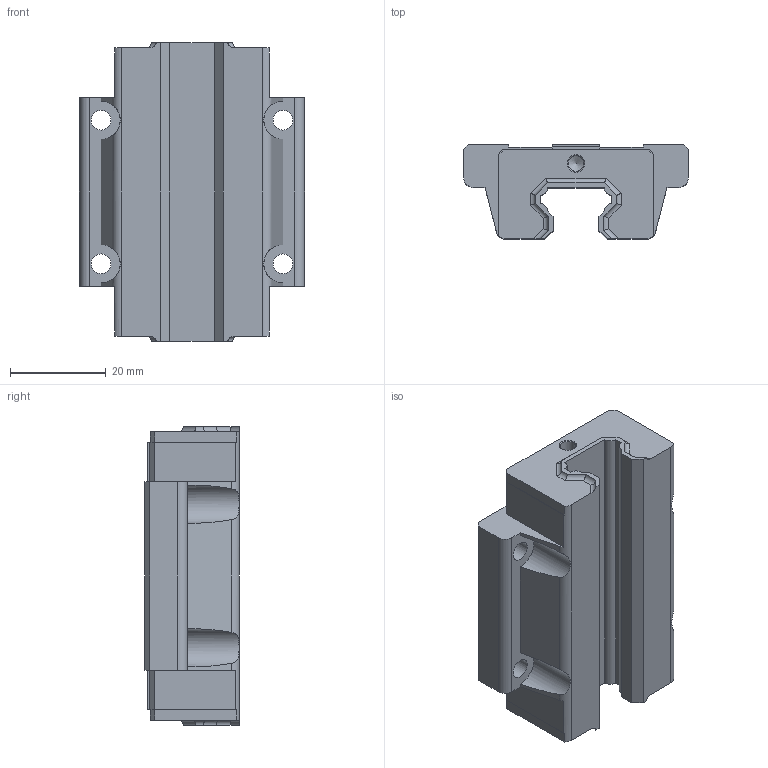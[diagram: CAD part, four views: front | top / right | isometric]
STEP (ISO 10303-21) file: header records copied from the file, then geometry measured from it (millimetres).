
FILE_DESCRIPTION(/* description */ (''),/* implementation_level */ '2;1');
FILE_NAME(/* name */ 'C:\Users\daviddillkoetter\ownCloud\Kamp und Kötter\Artikel\KPN_Profilführungen\Step\KPNW-15X-FS.stp',/* time_stamp */ '2021-01-27T16:39:17+01:00',/* author */ ('daviddillkoetter'),/* organization */ (''),/* preprocessor_version */ 'ST-DEVELOPER v18.1',/* originating_system */ 'Autodesk Inventor 2021',/* authorisation */ '');
FILE_SCHEMA (('AUTOMOTIVE_DESIGN { 1 0 10303 214 3 1 1 }'));
Length unit declared in the file: millimetre
Products named in the file (1): KPNW-F
Bounding box: 47 x 19.7 x 62.3 mm (x, y, z)
Volume: 35028.5 mm3; surface area: 10777.9 mm2
Topology: 1 solids, 1 shells, 120 faces, 336 edges, 218 vertices
Faces by surface type: plane 72, cylinder 40, cone 8
Full cylindrical faces by diameter (mm): 3.242 x2, 4.134 x4
Entity records: 4064 total; most frequent: CARTESIAN_POINT 759, ORIENTED_EDGE 668, DIRECTION 652, EDGE_CURVE 334, LINE 250, VECTOR 250, VERTEX_POINT 218, AXIS2_PLACEMENT_3D 201
